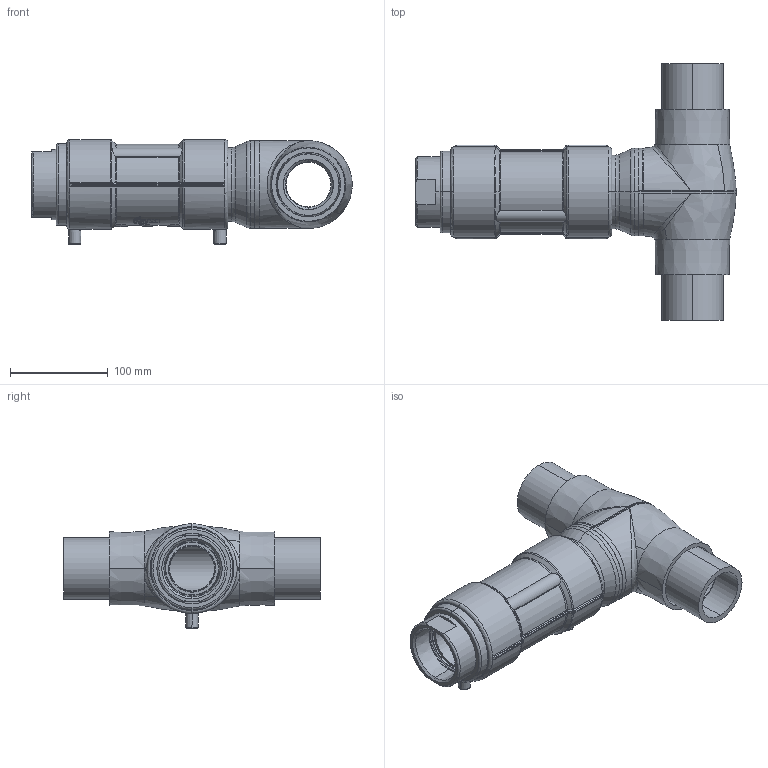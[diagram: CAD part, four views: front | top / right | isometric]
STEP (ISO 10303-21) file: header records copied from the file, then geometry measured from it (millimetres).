
FILE_DESCRIPTION (( 'STEP AP203' ), '1' );
FILE_NAME ('KP_8-75-63SCEC12.step', '2011-08-08T11:38:38', ( '' ), ( '' ), 'SwSTEP 2.0', 'SolidWorks 2011', '' );
FILE_SCHEMA (( 'CONFIG_CONTROL_DESIGN' ));
Length unit declared in the file: millimetre
Products named in the file (1): KP_8-75-63SCEC12
Bounding box: 328.49 x 263 x 107.22 mm (x, y, z)
Volume: 1449614.1 mm3; surface area: 436061.6 mm2
Topology: 5 solids, 13 shells, 1048 faces, 2710 edges, 1678 vertices
Faces by surface type: plane 330, cylinder 257, bspline 181, torus 176, cone 80, sphere 24
Entity records: 46657 total; most frequent: CARTESIAN_POINT 23280, ORIENTED_EDGE 5360, DIRECTION 4361, EDGE_CURVE 2680, AXIS2_PLACEMENT_3D 1767, VERTEX_POINT 1678, EDGE_LOOP 1112, FACE_OUTER_BOUND 1048
